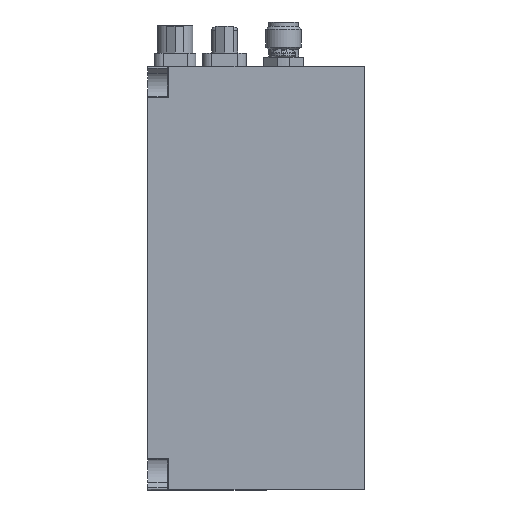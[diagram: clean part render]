
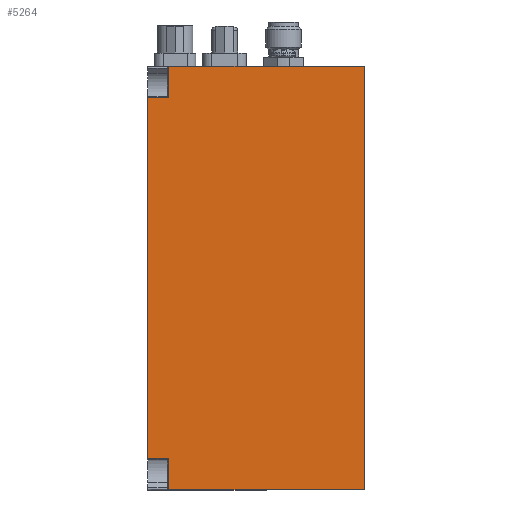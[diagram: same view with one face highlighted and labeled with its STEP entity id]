
A CAD part, left-side view. The second image highlights one B-rep face of the part: STEP entity #5264.
In plain terms, the highlighted planar face has unit normal (-1, 0, 0).
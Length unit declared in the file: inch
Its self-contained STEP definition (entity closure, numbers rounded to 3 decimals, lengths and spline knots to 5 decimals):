
#413 = ORIENTED_EDGE ( 'NONE', *, *, #35355, .F. ) ;
#755 = FACE_OUTER_BOUND ( 'NONE', #3224, .T. ) ;
#2729 = ORIENTED_EDGE ( 'NONE', *, *, #37792, .T. ) ;
#3077 = CARTESIAN_POINT ( 'NONE',  ( -2., 1.38445, -1.27698 ) ) ;
#3224 = EDGE_LOOP ( 'NONE', ( #44014, #2729, #40043, #14747, #413, #23133, #12198, #20617 ) ) ;
#3689 = VECTOR ( 'NONE', #30562, 39.37008 ) ;
#4454 = VERTEX_POINT ( 'NONE', #12530 ) ;
#4851 = EDGE_CURVE ( 'NONE', #26149, #45341, #36518, .T. ) ;
#5264 = ADVANCED_FACE ( 'NONE', ( #755 ), #43374, .F. ) ;
#5859 = EDGE_CURVE ( 'NONE', #32341, #42613, #41375, .T. ) ;
#5968 = CARTESIAN_POINT ( 'NONE',  ( -2., 1.39445, -1.27698 ) ) ;
#6135 = EDGE_CURVE ( 'NONE', #7792, #45341, #17404, .T. ) ;
#6290 = VECTOR ( 'NONE', #33553, 39.37008 ) ;
#6335 = CARTESIAN_POINT ( 'NONE',  ( -2., 1.39445, 1.27698 ) ) ;
#7792 = VERTEX_POINT ( 'NONE', #29554 ) ;
#7881 = VECTOR ( 'NONE', #10241, 39.37008 ) ;
#9104 = LINE ( 'NONE', #5968, #16388 ) ;
#10241 = DIRECTION ( 'NONE',  ( 0., 1., 0. ) ) ;
#11687 = DIRECTION ( 'NONE',  ( 0., 0., 1. ) ) ;
#12198 = ORIENTED_EDGE ( 'NONE', *, *, #6135, .T. ) ;
#12530 = CARTESIAN_POINT ( 'NONE',  ( -2., 1.38445, -1.5 ) ) ;
#13990 = CARTESIAN_POINT ( 'NONE',  ( -2., 1.38445, 1.27698 ) ) ;
#14018 = CARTESIAN_POINT ( 'NONE',  ( -2., 1.53445, -1.5 ) ) ;
#14260 = CARTESIAN_POINT ( 'NONE',  ( -2., 1.53445, 1.27698 ) ) ;
#14747 = ORIENTED_EDGE ( 'NONE', *, *, #5859, .T. ) ;
#15001 = CARTESIAN_POINT ( 'NONE',  ( -2., 1.53445, -1.5 ) ) ;
#16388 = VECTOR ( 'NONE', #27645, 39.37008 ) ;
#17181 = LINE ( 'NONE', #13990, #24379 ) ;
#17404 = LINE ( 'NONE', #6335, #7881 ) ;
#19387 = CARTESIAN_POINT ( 'NONE',  ( -2., 1.53445, 1.5 ) ) ;
#20617 = ORIENTED_EDGE ( 'NONE', *, *, #4851, .F. ) ;
#21369 = DIRECTION ( 'NONE',  ( 0., 0., -1. ) ) ;
#21770 = DIRECTION ( 'NONE',  ( 1., 0., 0. ) ) ;
#23133 = ORIENTED_EDGE ( 'NONE', *, *, #30354, .T. ) ;
#24379 = VECTOR ( 'NONE', #21369, 39.37008 ) ;
#24796 = DIRECTION ( 'NONE',  ( 0., -1., 0. ) ) ;
#26149 = VERTEX_POINT ( 'NONE', #31003 ) ;
#26158 = DIRECTION ( 'NONE',  ( 0., 0., 1. ) ) ;
#26833 = CARTESIAN_POINT ( 'NONE',  ( -2., 0., -1.5 ) ) ;
#27095 = VERTEX_POINT ( 'NONE', #34593 ) ;
#27645 = DIRECTION ( 'NONE',  ( 0., 1., 0. ) ) ;
#29193 = DIRECTION ( 'NONE',  ( 0., 0., -1. ) ) ;
#29554 = CARTESIAN_POINT ( 'NONE',  ( -2., 1.38445, 1.27698 ) ) ;
#30354 = EDGE_CURVE ( 'NONE', #27095, #7792, #17181, .T. ) ;
#30379 = VECTOR ( 'NONE', #26158, 39.37008 ) ;
#30562 = DIRECTION ( 'NONE',  ( 0., 0., -1. ) ) ;
#31003 = CARTESIAN_POINT ( 'NONE',  ( -2., 1.53445, -1.27698 ) ) ;
#31214 = VECTOR ( 'NONE', #24796, 39.37008 ) ;
#31948 = EDGE_CURVE ( 'NONE', #32538, #26149, #9104, .T. ) ;
#32341 = VERTEX_POINT ( 'NONE', #26833 ) ;
#32538 = VERTEX_POINT ( 'NONE', #3077 ) ;
#32872 = CARTESIAN_POINT ( 'NONE',  ( -2., 0., -1.5 ) ) ;
#33100 = LINE ( 'NONE', #19387, #6290 ) ;
#33284 = LINE ( 'NONE', #33865, #3689 ) ;
#33553 = DIRECTION ( 'NONE',  ( 0., -1., 0. ) ) ;
#33865 = CARTESIAN_POINT ( 'NONE',  ( -2., 1.38445, -1.5 ) ) ;
#34593 = CARTESIAN_POINT ( 'NONE',  ( -2., 1.38445, 1.5 ) ) ;
#35355 = EDGE_CURVE ( 'NONE', #27095, #42613, #33100, .T. ) ;
#36518 = LINE ( 'NONE', #44207, #30379 ) ;
#37792 = EDGE_CURVE ( 'NONE', #32538, #4454, #33284, .T. ) ;
#39096 = AXIS2_PLACEMENT_3D ( 'NONE', #15001, #21770, #29193 ) ;
#40043 = ORIENTED_EDGE ( 'NONE', *, *, #42255, .T. ) ;
#40832 = VECTOR ( 'NONE', #11687, 39.37008 ) ;
#41375 = LINE ( 'NONE', #32872, #40832 ) ;
#42029 = CARTESIAN_POINT ( 'NONE',  ( -2., 0., 1.5 ) ) ;
#42255 = EDGE_CURVE ( 'NONE', #4454, #32341, #46297, .T. ) ;
#42613 = VERTEX_POINT ( 'NONE', #42029 ) ;
#43374 = PLANE ( 'NONE',  #39096 ) ;
#44014 = ORIENTED_EDGE ( 'NONE', *, *, #31948, .F. ) ;
#44207 = CARTESIAN_POINT ( 'NONE',  ( -2., 1.53445, -1.5 ) ) ;
#45341 = VERTEX_POINT ( 'NONE', #14260 ) ;
#46297 = LINE ( 'NONE', #14018, #31214 ) ;
